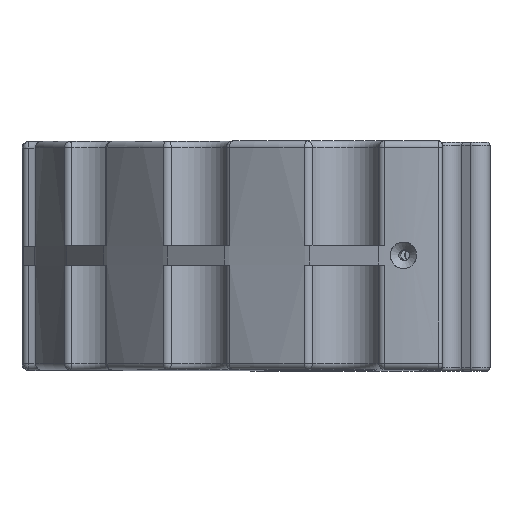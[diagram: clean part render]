
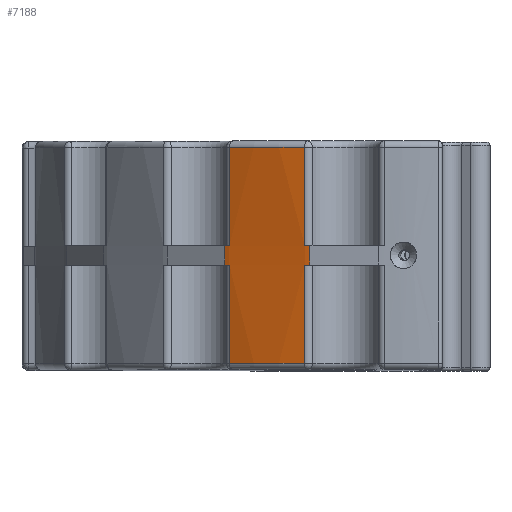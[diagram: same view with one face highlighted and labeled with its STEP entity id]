
A CAD part, top view. The second image highlights one B-rep face of the part: STEP entity #7188.
In plain terms, the highlighted cylindrical face has radius 64.25 mm (diameter 128.5 mm), a partial arc.
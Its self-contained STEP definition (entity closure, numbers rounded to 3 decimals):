
#147=CYLINDRICAL_SURFACE('',#7688,64.25);
#287=CIRCLE('',#7689,64.25);
#288=CIRCLE('',#7690,64.25);
#289=CIRCLE('',#7691,64.25);
#290=CIRCLE('',#7692,64.25);
#291=CIRCLE('',#7693,64.25);
#292=CIRCLE('',#7694,64.25);
#890=ORIENTED_EDGE('',*,*,#3080,.T.);
#891=ORIENTED_EDGE('',*,*,#3081,.T.);
#892=ORIENTED_EDGE('',*,*,#3082,.T.);
#893=ORIENTED_EDGE('',*,*,#3083,.F.);
#894=ORIENTED_EDGE('',*,*,#3084,.T.);
#895=ORIENTED_EDGE('',*,*,#3085,.T.);
#896=ORIENTED_EDGE('',*,*,#3086,.T.);
#897=ORIENTED_EDGE('',*,*,#3087,.T.);
#898=ORIENTED_EDGE('',*,*,#3088,.T.);
#899=ORIENTED_EDGE('',*,*,#3089,.T.);
#900=ORIENTED_EDGE('',*,*,#3090,.T.);
#901=ORIENTED_EDGE('',*,*,#3091,.T.);
#3080=EDGE_CURVE('',#4175,#4176,#287,.F.);
#3081=EDGE_CURVE('',#4176,#4177,#4805,.F.);
#3082=EDGE_CURVE('',#4177,#4178,#288,.F.);
#3083=EDGE_CURVE('',#4179,#4178,#4806,.T.);
#3084=EDGE_CURVE('',#4179,#4180,#289,.T.);
#3085=EDGE_CURVE('',#4180,#4181,#4807,.F.);
#3086=EDGE_CURVE('',#4181,#4182,#290,.T.);
#3087=EDGE_CURVE('',#4182,#4183,#4808,.T.);
#3088=EDGE_CURVE('',#4183,#4184,#291,.T.);
#3089=EDGE_CURVE('',#4184,#4185,#4809,.T.);
#3090=EDGE_CURVE('',#4185,#4186,#292,.F.);
#3091=EDGE_CURVE('',#4186,#4175,#4810,.T.);
#4175=VERTEX_POINT('',#11488);
#4176=VERTEX_POINT('',#11489);
#4177=VERTEX_POINT('',#11491);
#4178=VERTEX_POINT('',#11493);
#4179=VERTEX_POINT('',#11495);
#4180=VERTEX_POINT('',#11497);
#4181=VERTEX_POINT('',#11499);
#4182=VERTEX_POINT('',#11501);
#4183=VERTEX_POINT('',#11503);
#4184=VERTEX_POINT('',#11505);
#4185=VERTEX_POINT('',#11507);
#4186=VERTEX_POINT('',#11509);
#4805=LINE('',#11490,#5461);
#4806=LINE('',#11494,#5462);
#4807=LINE('',#11498,#5463);
#4808=LINE('',#11502,#5464);
#4809=LINE('',#11506,#5465);
#4810=LINE('',#11510,#5466);
#5461=VECTOR('',#8655,1000.);
#5462=VECTOR('',#8658,1000.);
#5463=VECTOR('',#8661,1000.);
#5464=VECTOR('',#8664,1000.);
#5465=VECTOR('',#8667,1000.);
#5466=VECTOR('',#8670,1000.);
#5997=EDGE_LOOP('',(#890,#891,#892,#893,#894,#895,#896,#897,#898,#899,#900,
#901));
#6493=FACE_BOUND('',#5997,.T.);
#7188=ADVANCED_FACE('',(#6493),#147,.T.);
#7688=AXIS2_PLACEMENT_3D('',#11486,#8651,#8652);
#7689=AXIS2_PLACEMENT_3D('',#11487,#8653,#8654);
#7690=AXIS2_PLACEMENT_3D('',#11492,#8656,#8657);
#7691=AXIS2_PLACEMENT_3D('',#11496,#8659,#8660);
#7692=AXIS2_PLACEMENT_3D('',#11500,#8662,#8663);
#7693=AXIS2_PLACEMENT_3D('',#11504,#8665,#8666);
#7694=AXIS2_PLACEMENT_3D('',#11508,#8668,#8669);
#8651=DIRECTION('',(0.,1.,0.));
#8652=DIRECTION('',(0.,0.,1.));
#8653=DIRECTION('',(0.,1.,0.));
#8654=DIRECTION('',(0.,0.,1.));
#8655=DIRECTION('',(0.,1.,0.));
#8656=DIRECTION('',(0.,1.,0.));
#8657=DIRECTION('',(0.,0.,1.));
#8658=DIRECTION('',(0.,1.,0.));
#8659=DIRECTION('',(0.,1.,0.));
#8660=DIRECTION('',(0.,0.,1.));
#8661=DIRECTION('',(0.,1.,0.));
#8662=DIRECTION('',(0.,1.,0.));
#8663=DIRECTION('',(0.,0.,1.));
#8664=DIRECTION('',(0.,1.,0.));
#8665=DIRECTION('',(0.,1.,0.));
#8666=DIRECTION('',(0.,0.,1.));
#8667=DIRECTION('',(0.,1.,0.));
#8668=DIRECTION('',(0.,1.,0.));
#8669=DIRECTION('',(0.,0.,1.));
#8670=DIRECTION('',(0.,1.,0.));
#11486=CARTESIAN_POINT('',(0.,-17.5,0.));
#11487=CARTESIAN_POINT('',(0.,16.5,0.));
#11488=CARTESIAN_POINT('',(-21.013,16.5,60.717));
#11489=CARTESIAN_POINT('',(-32.523,16.5,55.411));
#11490=CARTESIAN_POINT('',(-32.523,-17.5,55.411));
#11491=CARTESIAN_POINT('',(-32.523,1.5,55.411));
#11492=CARTESIAN_POINT('',(0.,1.5,0.));
#11493=CARTESIAN_POINT('',(-33.256,1.5,54.974));
#11494=CARTESIAN_POINT('',(-33.256,-1.5,54.974));
#11495=CARTESIAN_POINT('',(-33.256,-1.5,54.974));
#11496=CARTESIAN_POINT('',(0.,-1.5,0.));
#11497=CARTESIAN_POINT('',(-32.523,-1.5,55.411));
#11498=CARTESIAN_POINT('',(-32.523,-17.5,55.411));
#11499=CARTESIAN_POINT('',(-32.523,-16.5,55.411));
#11500=CARTESIAN_POINT('',(0.,-16.5,0.));
#11501=CARTESIAN_POINT('',(-21.013,-16.5,60.717));
#11502=CARTESIAN_POINT('',(-21.013,-17.5,60.717));
#11503=CARTESIAN_POINT('',(-21.013,-1.5,60.717));
#11504=CARTESIAN_POINT('',(0.,-1.5,0.));
#11505=CARTESIAN_POINT('',(-20.205,-1.5,60.99));
#11506=CARTESIAN_POINT('',(-20.205,-1.5,60.99));
#11507=CARTESIAN_POINT('',(-20.205,1.5,60.99));
#11508=CARTESIAN_POINT('',(0.,1.5,0.));
#11509=CARTESIAN_POINT('',(-21.013,1.5,60.717));
#11510=CARTESIAN_POINT('',(-21.013,-17.5,60.717));
